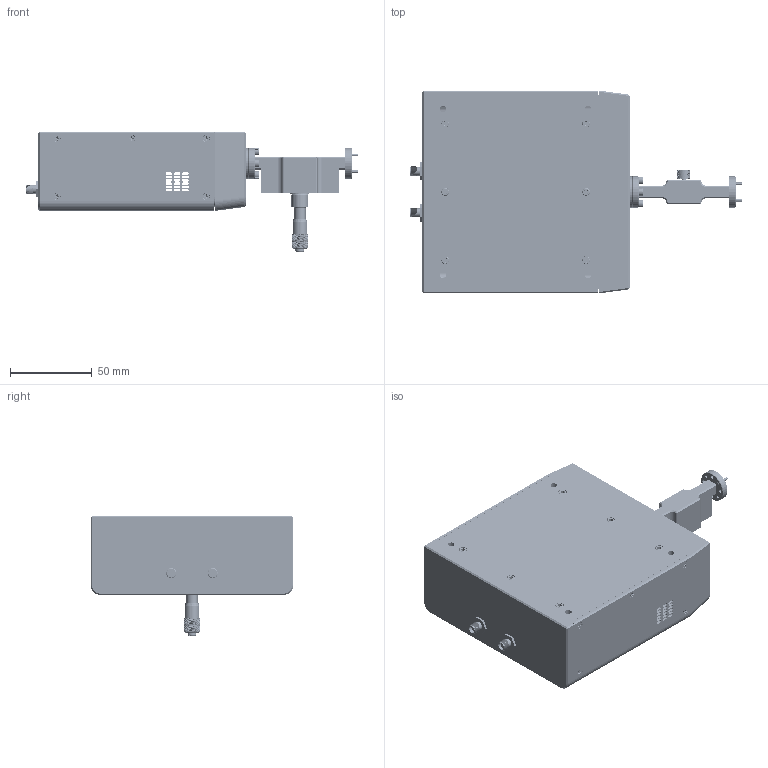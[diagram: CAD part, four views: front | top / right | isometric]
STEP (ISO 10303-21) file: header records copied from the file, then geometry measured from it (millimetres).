
FILE_DESCRIPTION (( 'STEP AP214' ), '1' );
FILE_NAME ('TR-EL-2, Defeatured, with no feet.STEP', '2025-04-30T18:32:55', ( '' ), ( '' ), 'SwSTEP 2.0', 'SolidWorks 2021', '' );
FILE_SCHEMA (( 'AUTOMOTIVE_DESIGN' ));
Length unit declared in the file: inch
Products named in the file (1): TR-EL-2, Defeatured, with no feet
Bounding box: 203.52 x 124.32 x 73.27 mm (x, y, z)
Volume: 279191.7 mm3; surface area: 144612.9 mm2
Topology: 43 solids, 55 shells, 7547 faces, 17888 edges, 10492 vertices
Faces by surface type: bspline 2683, cylinder 2653, plane 1597, cone 600, torus 14
Entity records: 807600 total; most frequent: CARTESIAN_POINT 577120, ORIENTED_EDGE 35568, DIRECTION 19089, EDGE_CURVE 17784, VERTEX_POINT 10492, EDGE_LOOP 7904, ADVANCED_FACE 7547, FACE_OUTER_BOUND 7547
